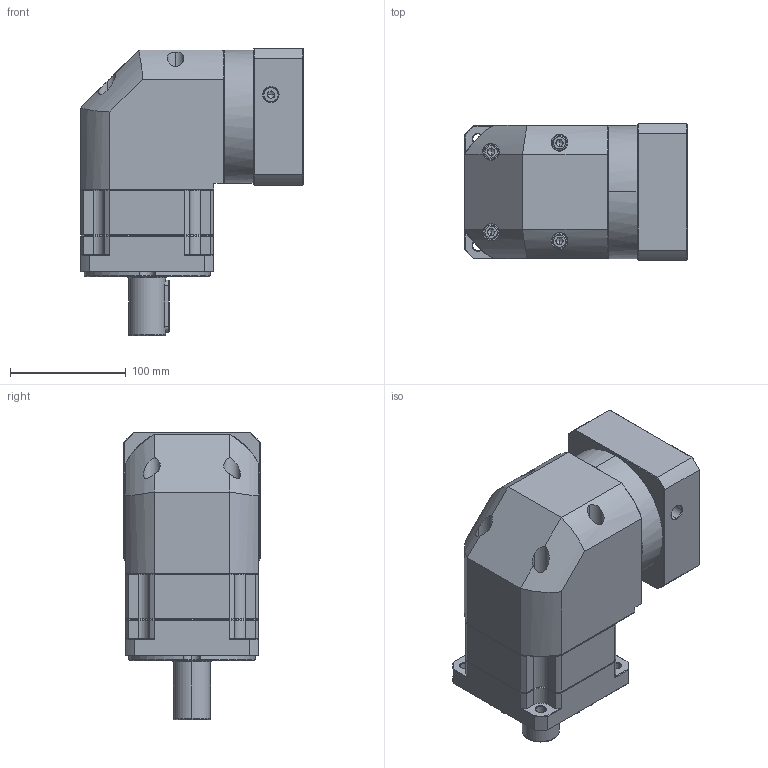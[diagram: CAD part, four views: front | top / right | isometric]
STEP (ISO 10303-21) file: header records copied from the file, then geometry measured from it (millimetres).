
FILE_DESCRIPTION (( 'STEP AP214' ), '1' );
FILE_NAME ('ZBR115A-D32-L1-P2-22-110-130-M8.step', '2023-08-26T12:36:28', ( '' ), ( '' ), 'SwSTEP 2.0', 'SolidWorks 2016', '' );
FILE_SCHEMA (( 'AUTOMOTIVE_DESIGN' ));
Length unit declared in the file: millimetre
Products named in the file (1): ZBR115A-D32-L1-P2-22-110-130-M8
Bounding box: 192.4 x 118 x 248 mm (x, y, z)
Volume: 2951348.1 mm3; surface area: 247790.1 mm2
Topology: 6 solids, 6 shells, 2381 faces, 6225 edges, 3948 vertices
Faces by surface type: plane 1139, cylinder 439, bspline 425, cone 370, torus 8
Entity records: 128281 total; most frequent: CARTESIAN_POINT 47207, ORIENTED_EDGE 12390, DIRECTION 9765, EDGE_CURVE 6195, LINE 3991, VECTOR 3991, VERTEX_POINT 3948, AXIS2_PLACEMENT_3D 2887
